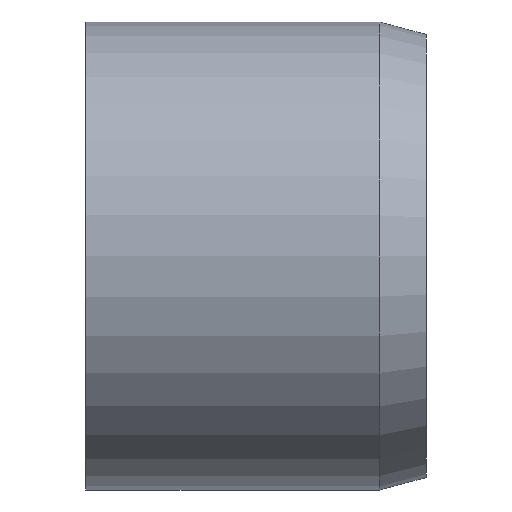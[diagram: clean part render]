
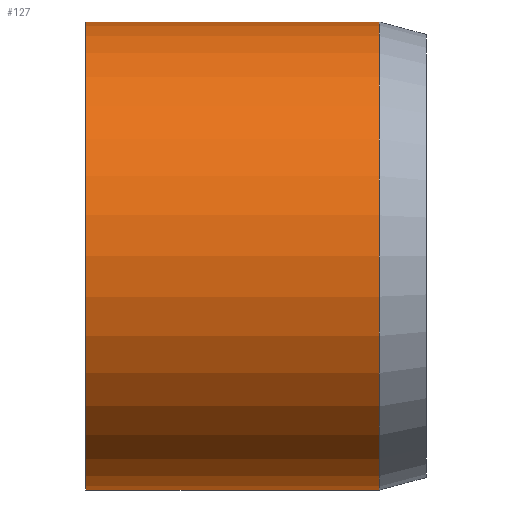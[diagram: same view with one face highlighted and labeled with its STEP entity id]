
A CAD part, left-side view. The second image highlights one B-rep face of the part: STEP entity #127.
In plain terms, the highlighted cylindrical face has radius 11 mm (diameter 22 mm), a partial arc.
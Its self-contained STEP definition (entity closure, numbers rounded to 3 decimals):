
#8 = CARTESIAN_POINT ( 'NONE',  ( 0., 2.2, 0. ) ) ;
#10 = EDGE_LOOP ( 'NONE', ( #243, #393, #222, #117 ) ) ;
#36 = DIRECTION ( 'NONE',  ( 0., 0., -1. ) ) ;
#40 = VERTEX_POINT ( 'NONE', #200 ) ;
#44 = VERTEX_POINT ( 'NONE', #258 ) ;
#45 = AXIS2_PLACEMENT_3D ( 'NONE', #186, #313, #149 ) ;
#48 = AXIS2_PLACEMENT_3D ( 'NONE', #452, #126, #36 ) ;
#88 = CYLINDRICAL_SURFACE ( 'NONE', #48, 11. ) ;
#117 = ORIENTED_EDGE ( 'NONE', *, *, #266, .F. ) ;
#121 = LINE ( 'NONE', #410, #215 ) ;
#125 = CIRCLE ( 'NONE', #311, 11. ) ;
#126 = DIRECTION ( 'NONE',  ( 0., -1., 0. ) ) ;
#127 = ADVANCED_FACE ( 'NONE', ( #387 ), #88, .T. ) ;
#149 = DIRECTION ( 'NONE',  ( 0., 0., -1. ) ) ;
#151 = DIRECTION ( 'NONE',  ( 0., -1., 0. ) ) ;
#156 = LINE ( 'NONE', #160, #267 ) ;
#160 = CARTESIAN_POINT ( 'NONE',  ( 0., 0., 11. ) ) ;
#186 = CARTESIAN_POINT ( 'NONE',  ( 0., 16., 0. ) ) ;
#189 = DIRECTION ( 'NONE',  ( 0., 0., -1. ) ) ;
#200 = CARTESIAN_POINT ( 'NONE',  ( 0., 16., -11. ) ) ;
#207 = CIRCLE ( 'NONE', #45, 11. ) ;
#215 = VECTOR ( 'NONE', #407, 1000. ) ;
#222 = ORIENTED_EDGE ( 'NONE', *, *, #336, .T. ) ;
#229 = EDGE_CURVE ( 'NONE', #44, #40, #207, .T. ) ;
#243 = ORIENTED_EDGE ( 'NONE', *, *, #299, .F. ) ;
#257 = VERTEX_POINT ( 'NONE', #367 ) ;
#258 = CARTESIAN_POINT ( 'NONE',  ( 0., 16., 11. ) ) ;
#266 = EDGE_CURVE ( 'NONE', #257, #399, #125, .T. ) ;
#267 = VECTOR ( 'NONE', #446, 1000. ) ;
#299 = EDGE_CURVE ( 'NONE', #44, #257, #156, .T. ) ;
#311 = AXIS2_PLACEMENT_3D ( 'NONE', #8, #151, #189 ) ;
#313 = DIRECTION ( 'NONE',  ( 0., -1., 0. ) ) ;
#336 = EDGE_CURVE ( 'NONE', #40, #399, #121, .T. ) ;
#367 = CARTESIAN_POINT ( 'NONE',  ( 0., 2.2, 11. ) ) ;
#385 = CARTESIAN_POINT ( 'NONE',  ( 0., 2.2, -11. ) ) ;
#387 = FACE_OUTER_BOUND ( 'NONE', #10, .T. ) ;
#393 = ORIENTED_EDGE ( 'NONE', *, *, #229, .T. ) ;
#399 = VERTEX_POINT ( 'NONE', #385 ) ;
#407 = DIRECTION ( 'NONE',  ( 0., -1., 0. ) ) ;
#410 = CARTESIAN_POINT ( 'NONE',  ( 0., 0., -11. ) ) ;
#446 = DIRECTION ( 'NONE',  ( 0., -1., 0. ) ) ;
#452 = CARTESIAN_POINT ( 'NONE',  ( 0., 0., 0. ) ) ;
